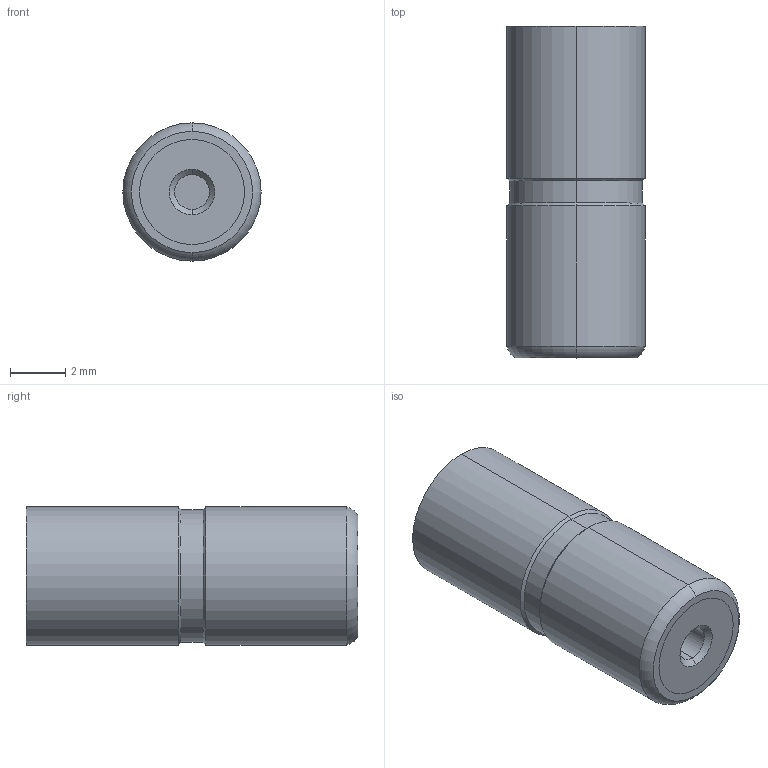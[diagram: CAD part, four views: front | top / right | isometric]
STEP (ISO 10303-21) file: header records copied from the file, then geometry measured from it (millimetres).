
FILE_DESCRIPTION (( 'STEP AP214' ), '1' );
FILE_NAME ('FP 053000.STEP', '2015-02-27T09:11:06', ( '' ), ( '' ), 'SwSTEP 2.0', 'SolidWorks 2014', '' );
FILE_SCHEMA (( 'AUTOMOTIVE_DESIGN' ));
Length unit declared in the file: millimetre
Products named in the file (6): IA 3075SF; 9FP 053000; FA 053000-2; FP 053000-1; FP 053000; FA 053000-3
Assembly tree (5 placements, depth 2):
  FP 053000
    9FP 053000
    FP 053000-1
    IA 3075SF
    FA 053000-3
    FA 053000-2
Bounding box: 5 x 12 x 5 mm (x, y, z)
Volume: 199 mm3; surface area: 608.2 mm2
Topology: 5 solids, 5 shells, 93 faces, 190 edges, 118 vertices
Faces by surface type: cylinder 40, plane 29, cone 18, bspline 4, torus 2
Entity records: 4776 total; most frequent: CARTESIAN_POINT 2425, DIRECTION 476, ORIENTED_EDGE 380, AXIS2_PLACEMENT_3D 199, EDGE_CURVE 190, VERTEX_POINT 118, EDGE_LOOP 110, CIRCLE 102
